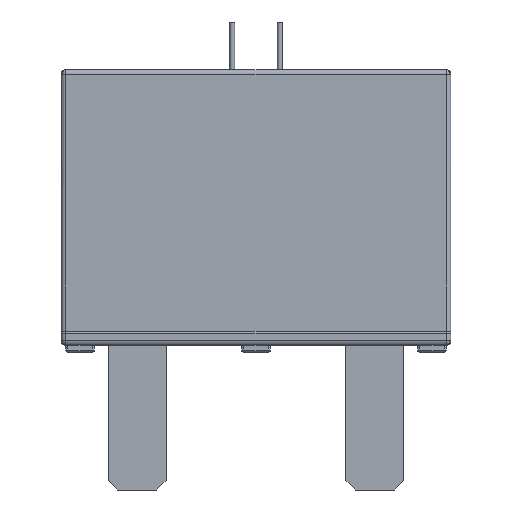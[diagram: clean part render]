
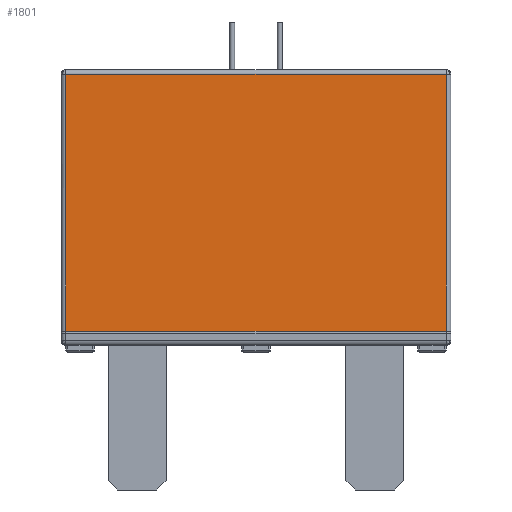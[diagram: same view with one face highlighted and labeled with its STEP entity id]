
A CAD part, front view. The second image highlights one B-rep face of the part: STEP entity #1801.
In plain terms, the highlighted planar face has unit normal (0, -1, 0).
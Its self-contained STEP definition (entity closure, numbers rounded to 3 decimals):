
#3 = VECTOR ( 'NONE', #6871, 1000. ) ;
#199 = CARTESIAN_POINT ( 'NONE',  ( -20., -8.25, 1.5 ) ) ;
#540 = LINE ( 'NONE', #199, #3789 ) ;
#1072 = CARTESIAN_POINT ( 'NONE',  ( -20., -8.25, 28.5 ) ) ;
#1371 = CARTESIAN_POINT ( 'NONE',  ( -20., -8.25, 1.5 ) ) ;
#1518 = CARTESIAN_POINT ( 'NONE',  ( 20., -8.25, 1.5 ) ) ;
#1801 = ADVANCED_FACE ( 'NONE', ( #3674 ), #6271, .T. ) ;
#2317 = VECTOR ( 'NONE', #4186, 1000. ) ;
#2320 = DIRECTION ( 'NONE',  ( 1., 0., 0. ) ) ;
#2401 = VERTEX_POINT ( 'NONE', #1371 ) ;
#2434 = EDGE_CURVE ( 'NONE', #6024, #4874, #6130, .T. ) ;
#3400 = CARTESIAN_POINT ( 'NONE',  ( -20., -8.25, 1.5 ) ) ;
#3430 = VERTEX_POINT ( 'NONE', #7042 ) ;
#3522 = CARTESIAN_POINT ( 'NONE',  ( -20., -8.25, 1.5 ) ) ;
#3573 = VECTOR ( 'NONE', #7516, 1000. ) ;
#3674 = FACE_OUTER_BOUND ( 'NONE', #4060, .T. ) ;
#3767 = CARTESIAN_POINT ( 'NONE',  ( 20., -8.25, 28.5 ) ) ;
#3789 = VECTOR ( 'NONE', #2320, 1000. ) ;
#4060 = EDGE_LOOP ( 'NONE', ( #8727, #8506, #5783, #6009 ) ) ;
#4186 = DIRECTION ( 'NONE',  ( 0., 0., 1. ) ) ;
#4843 = DIRECTION ( 'NONE',  ( 0., -1., 0. ) ) ;
#4874 = VERTEX_POINT ( 'NONE', #3767 ) ;
#5530 = EDGE_CURVE ( 'NONE', #4874, #3430, #6520, .T. ) ;
#5783 = ORIENTED_EDGE ( 'NONE', *, *, #7688, .T. ) ;
#6009 = ORIENTED_EDGE ( 'NONE', *, *, #7256, .T. ) ;
#6024 = VERTEX_POINT ( 'NONE', #1518 ) ;
#6130 = LINE ( 'NONE', #7029, #2317 ) ;
#6271 = PLANE ( 'NONE',  #6861 ) ;
#6301 = DIRECTION ( 'NONE',  ( 0., 0., -1. ) ) ;
#6520 = LINE ( 'NONE', #1072, #3 ) ;
#6861 = AXIS2_PLACEMENT_3D ( 'NONE', #3400, #4843, #6301 ) ;
#6871 = DIRECTION ( 'NONE',  ( -1., 0., 0. ) ) ;
#7029 = CARTESIAN_POINT ( 'NONE',  ( 20., -8.25, 1.5 ) ) ;
#7042 = CARTESIAN_POINT ( 'NONE',  ( -20., -8.25, 28.5 ) ) ;
#7252 = LINE ( 'NONE', #3522, #3573 ) ;
#7256 = EDGE_CURVE ( 'NONE', #2401, #6024, #540, .T. ) ;
#7516 = DIRECTION ( 'NONE',  ( 0., 0., -1. ) ) ;
#7688 = EDGE_CURVE ( 'NONE', #3430, #2401, #7252, .T. ) ;
#8506 = ORIENTED_EDGE ( 'NONE', *, *, #5530, .T. ) ;
#8727 = ORIENTED_EDGE ( 'NONE', *, *, #2434, .T. ) ;
